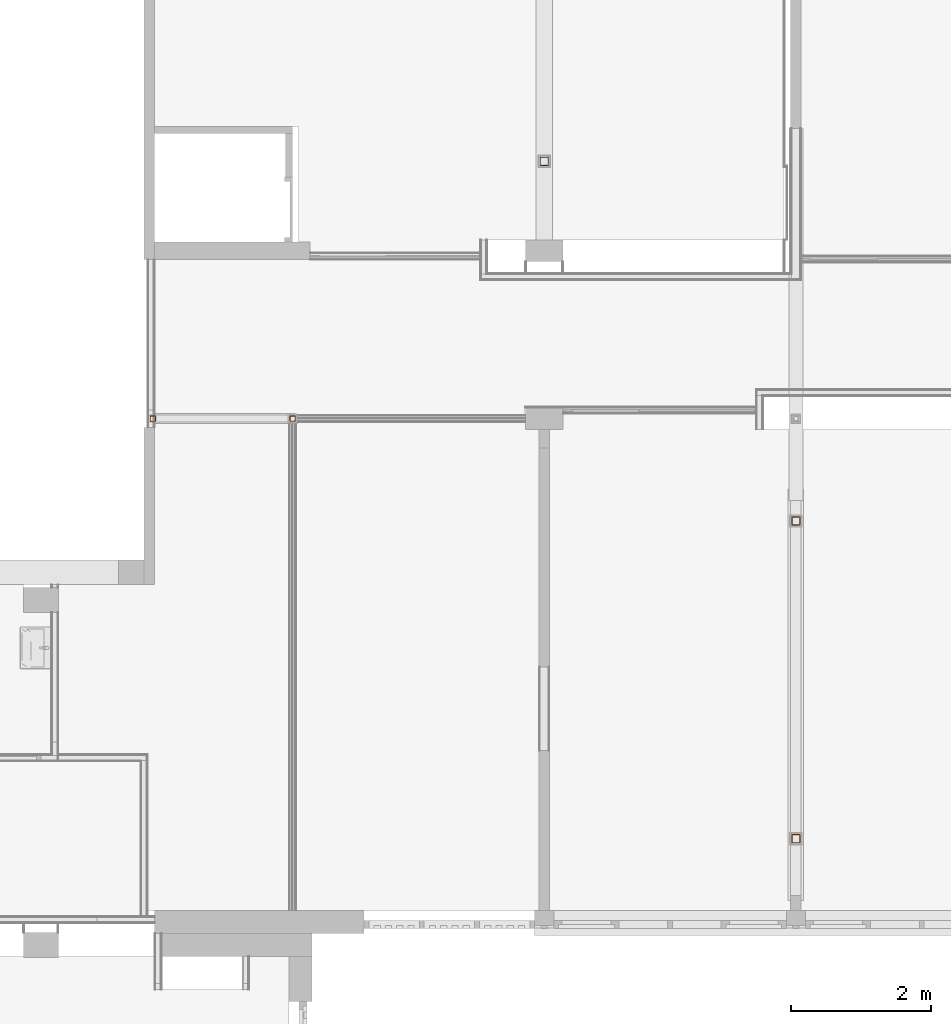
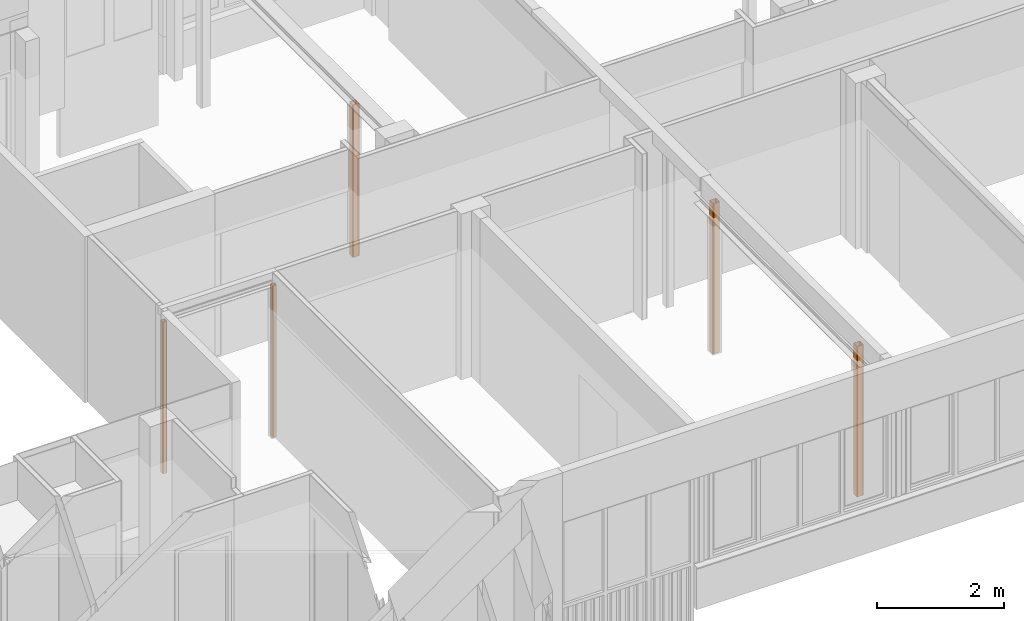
# One storey, part 84 of 99: 5 proxies.
"""IFC2X3 building model written with IfcOpenShell, lengths in millimetres."""

from ifc_helpers import new_model, entity, si_unit, converted_unit, derived_unit, money_unit, direction, frame, origin_with_axes, place, context, subcontext, project, spatial, faceted_brep, source, transform, mapped, material, type_object, type_shapes, element, save


model = new_model("IFC2X3")

# Units and contexts
model_context = context("Model", 3, precision=0.01, world=origin_with_axes(), true_north=direction((0.0, 1.0)))
body_context = subcontext(model_context, "Body", "Model", "MODEL_VIEW")
ifc_project = project(units=[si_unit("LENGTHUNIT", "METRE", prefix="MILLI"), si_unit("AREAUNIT", "SQUARE_METRE"), si_unit("VOLUMEUNIT", "CUBIC_METRE"), converted_unit("PLANEANGLEUNIT", "DEGREE", entity("IfcPlaneAngleMeasure", 0.0174532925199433), si_unit("PLANEANGLEUNIT", "RADIAN"), dimensions=[0, 0, 0, 0, 0, 0, 0]), money_unit("EUR"), converted_unit("TIMEUNIT", "Year", entity("IfcTimeMeasure", 31557600.0), si_unit("TIMEUNIT", "SECOND"), dimensions=[0, 0, 1, 0, 0, 0, 0]), si_unit("MASSUNIT", "GRAM", prefix="KILO"), si_unit("THERMODYNAMICTEMPERATUREUNIT", "DEGREE_CELSIUS"), si_unit("LUMINOUSINTENSITYUNIT", "LUMEN"), si_unit("ENERGYUNIT", "JOULE", prefix="MEGA"), derived_unit("THERMALCONDUCTANCEUNIT", [(si_unit("POWERUNIT", "WATT"), 1), (si_unit("LENGTHUNIT", "METRE"), -1), (si_unit("THERMODYNAMICTEMPERATUREUNIT", "KELVIN"), -1)]), derived_unit("SPECIFICHEATCAPACITYUNIT", [(si_unit("ENERGYUNIT", "JOULE"), 1), (si_unit("MASSUNIT", "GRAM", prefix="KILO"), -1), (si_unit("THERMODYNAMICTEMPERATUREUNIT", "KELVIN"), -1)]), derived_unit("MASSDENSITYUNIT", [(si_unit("MASSUNIT", "GRAM", prefix="KILO"), 1), (si_unit("VOLUMEUNIT", "CUBIC_METRE"), -1)])], contexts=[model_context])

# Site, building, storey
site_placement = place(None, origin_with_axes())
site = spatial("IfcSite", under=ifc_project, at=site_placement, Name="Site", CompositionType="ELEMENT")
building_placement = place(site_placement, origin_with_axes())
building = spatial("IfcBuilding", under=site, at=building_placement, Name="Naam gebouw", CompositionType="ELEMENT")
storey_placement = place(building_placement, frame((0.0, 0.0, 7650.0), z_axis=(0.0, 0.0, 1.0), x_axis=(1.0, 0.0, 0.0)))
storey = spatial("IfcBuildingStorey", under=building, at=storey_placement, Name="2e verdieping N", CompositionType="ELEMENT", Elevation=7650.0)

# Proxies
ifc_material = material(Name="Metaal - Staal AFW")
building_element_proxy_type = type_object("IfcBuildingElementProxyType", Name="Buis vk warmgew kolom 27", PredefinedType="NOTDEFINED")
shared_shape_1 = source(origin_with_axes(), body_context, "Body", "Brep", [
    faceted_brep([(30.0, -40.0, 0.0), (30.0, -40.0, 2926.999999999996), (-30.0, -40.0, 2926.999999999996), (-30.0, -40.0, 0.0), (37.07106781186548, -37.07106781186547, 0.0), (37.07106781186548, -37.07106781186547, 2926.999999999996), (40.0, -30.0, 2926.999999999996), (39.99999999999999, 30.00000000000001, 2926.999999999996), (37.07106781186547, 37.07106781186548, 2926.999999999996), (30.0, 40.0, 2926.999999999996), (-30.00000000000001, 39.99999999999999, 2926.999999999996), (-37.07106781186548, 37.07106781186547, 2926.999999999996), (-40.0, 30.0, 2926.999999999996), (-39.99999999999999, -30.00000000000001, 2926.999999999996), (-37.07106781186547, -37.07106781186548, 2926.999999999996), (30.0, -35.0, 2926.999999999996), (-30.0, -35.0, 2926.999999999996), (-33.53553390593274, -33.53553390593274, 2926.999999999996), (-35.0, -30.0, 2926.999999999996), (-35.0, 30.0, 2926.999999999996), (-33.53553390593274, 33.53553390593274, 2926.999999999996), (-30.0, 35.0, 2926.999999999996), (30.0, 35.0, 2926.999999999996), (33.53553390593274, 33.53553390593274, 2926.999999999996), (35.0, 30.0, 2926.999999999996), (35.0, -30.0, 2926.999999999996), (33.53553390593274, -33.53553390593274, 2926.999999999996), (-37.07106781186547, -37.07106781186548, 0.0), (-39.99999999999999, -30.00000000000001, 0.0), (-40.0, 30.0, 0.0), (-37.07106781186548, 37.07106781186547, 0.0), (-30.00000000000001, 39.99999999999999, 0.0), (30.0, 40.0, 0.0), (37.07106781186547, 37.07106781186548, 0.0), (39.99999999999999, 30.00000000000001, 0.0), (40.0, -30.0, 0.0), (30.0, -35.0, 0.0), (33.53553390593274, -33.53553390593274, 0.0), (35.0, -30.0, 0.0), (35.0, 30.0, 0.0), (33.53553390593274, 33.53553390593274, 0.0), (30.0, 35.0, 0.0), (-30.0, 35.0, 0.0), (-33.53553390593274, 33.53553390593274, 0.0), (-35.0, 30.0, 0.0), (-35.0, -30.0, 0.0), (-33.53553390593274, -33.53553390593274, 0.0), (-30.0, -35.0, 0.0)], [[[0, 1, 2, 3]], [[4, 5, 1, 0]], [[1, 5, 6, 7, 8, 9, 10, 11, 12, 13, 14, 2], [15, 16, 17, 18, 19, 20, 21, 22, 23, 24, 25, 26]], [[3, 2, 14, 27]], [[0, 3, 27, 28, 29, 30, 31, 32, 33, 34, 35, 4], [36, 37, 38, 39, 40, 41, 42, 43, 44, 45, 46, 47]], [[35, 6, 5, 4]], [[34, 7, 6, 35]], [[33, 8, 7, 34]], [[32, 9, 8, 33]], [[31, 10, 9, 32]], [[30, 11, 10, 31]], [[29, 12, 11, 30]], [[28, 13, 12, 29]], [[27, 14, 13, 28]], [[47, 16, 15, 36]], [[46, 17, 16, 47]], [[45, 18, 17, 46]], [[44, 19, 18, 45]], [[43, 20, 19, 44]], [[42, 21, 20, 43]], [[41, 22, 21, 42]], [[40, 23, 22, 41]], [[39, 24, 23, 40]], [[38, 25, 24, 39]], [[37, 26, 25, 38]], [[36, 15, 26, 37]]]),
])
for number, where, z_axis, x_axis, name in (
    (1, (30400.0, 18025.91242510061, 0.0), (0.0, 0.0, 1.0), (0.0, -1.0, 0.0), "_Boom-x"),
    (2, (32399.99999999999, 18025.91242510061, 0.0), (0.0, 0.0, 1.0), (0.0, -1.0, 0.0), "_Boom-x"),
):
    element("IfcBuildingElementProxy", number, at=place(storey_placement, frame(where, z_axis=z_axis, x_axis=x_axis)), inside=storey, type_object=building_element_proxy_type, material=ifc_material, Name=name, context=body_context, shape_type="MappedRepresentation", body=[
        mapped(shared_shape_1, transform((0.0, 0.0, 0.0))),
    ])
shared_shape_2 = source(origin_with_axes(), body_context, "Body", "Brep", [
    faceted_brep([(49.99999999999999, -60.0, 0.0), (49.99999999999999, -60.0, 2939.999999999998), (-49.99999999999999, -60.0, 2939.999999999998), (-49.99999999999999, -60.0, 0.0), (57.07106781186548, -57.07106781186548, 0.0), (57.07106781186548, -57.07106781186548, 2939.999999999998), (60.0, -49.99999999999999, 2939.999999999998), (60.00000000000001, 49.99999999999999, 2939.999999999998), (57.07106781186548, 57.07106781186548, 2939.999999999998), (49.99999999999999, 60.0, 2939.999999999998), (-49.99999999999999, 60.00000000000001, 2939.999999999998), (-57.07106781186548, 57.07106781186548, 2939.999999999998), (-60.0, 49.99999999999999, 2939.999999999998), (-60.00000000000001, -49.99999999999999, 2939.999999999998), (-57.07106781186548, -57.07106781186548, 2939.999999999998), (49.99999999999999, -55.0, 2939.999999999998), (-49.99999999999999, -55.0, 2939.999999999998), (-53.53553390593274, -53.53553390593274, 2939.999999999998), (-55.0, -49.99999999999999, 2939.999999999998), (-55.0, 49.99999999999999, 2939.999999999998), (-53.53553390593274, 53.53553390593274, 2939.999999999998), (-49.99999999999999, 55.0, 2939.999999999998), (49.99999999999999, 55.0, 2939.999999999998), (53.53553390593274, 53.53553390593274, 2939.999999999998), (55.0, 49.99999999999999, 2939.999999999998), (55.0, -49.99999999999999, 2939.999999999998), (53.53553390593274, -53.53553390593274, 2939.999999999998), (-57.07106781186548, -57.07106781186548, 0.0), (-60.00000000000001, -49.99999999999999, 0.0), (-60.0, 49.99999999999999, 0.0), (-57.07106781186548, 57.07106781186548, 0.0), (-49.99999999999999, 60.00000000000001, 0.0), (49.99999999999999, 60.0, 0.0), (57.07106781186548, 57.07106781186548, 0.0), (60.00000000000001, 49.99999999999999, 0.0), (60.0, -49.99999999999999, 0.0), (49.99999999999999, -55.0, 0.0), (53.53553390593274, -53.53553390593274, 0.0), (55.0, -49.99999999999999, 0.0), (55.0, 49.99999999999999, 0.0), (53.53553390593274, 53.53553390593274, 0.0), (49.99999999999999, 55.0, 0.0), (-49.99999999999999, 55.0, 0.0), (-53.53553390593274, 53.53553390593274, 0.0), (-55.0, 49.99999999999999, 0.0), (-55.0, -49.99999999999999, 0.0), (-53.53553390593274, -53.53553390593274, 0.0), (-49.99999999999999, -55.0, 0.0)], [[[0, 1, 2, 3]], [[4, 5, 1, 0]], [[1, 5, 6, 7, 8, 9, 10, 11, 12, 13, 14, 2], [15, 16, 17, 18, 19, 20, 21, 22, 23, 24, 25, 26]], [[3, 2, 14, 27]], [[0, 3, 27, 28, 29, 30, 31, 32, 33, 34, 35, 4], [36, 37, 38, 39, 40, 41, 42, 43, 44, 45, 46, 47]], [[35, 6, 5, 4]], [[34, 7, 6, 35]], [[33, 8, 7, 34]], [[32, 9, 8, 33]], [[31, 10, 9, 32]], [[30, 11, 10, 31]], [[29, 12, 11, 30]], [[28, 13, 12, 29]], [[27, 14, 13, 28]], [[47, 16, 15, 36]], [[46, 17, 16, 47]], [[45, 18, 17, 46]], [[44, 19, 18, 45]], [[43, 20, 19, 44]], [[42, 21, 20, 43]], [[41, 22, 21, 42]], [[40, 23, 22, 41]], [[39, 24, 23, 40]], [[38, 25, 24, 39]], [[37, 26, 25, 38]], [[36, 15, 26, 37]]]),
])
proxy_placement = place(storey_placement, frame((35999.99999999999, 21705.91242510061, 0.0), z_axis=(0.0, 0.0, 1.0), x_axis=(0.0, -1.0, 0.0)))
element("IfcBuildingElementProxy", 3, at=proxy_placement, inside=storey, type_object=building_element_proxy_type, material=ifc_material, Name="_Boom-x", context=body_context, shape_type="MappedRepresentation", body=[
    mapped(shared_shape_2, transform((0.0, 0.0, 0.0))),
])
shared_shape_3 = source(origin_with_axes(), body_context, "Body", "Brep", [
    faceted_brep([(49.99999999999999, -60.0, 0.0), (49.99999999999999, -60.0, 2900.0), (-49.99999999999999, -60.0, 2900.0), (-49.99999999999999, -60.0, 0.0), (57.07106781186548, -57.07106781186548, 0.0), (57.07106781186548, -57.07106781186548, 2900.0), (60.0, -49.99999999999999, 2900.0), (60.00000000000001, 49.99999999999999, 2900.0), (57.07106781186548, 57.07106781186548, 2900.0), (49.99999999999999, 60.0, 2900.0), (-49.99999999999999, 60.00000000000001, 2900.0), (-57.07106781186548, 57.07106781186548, 2900.0), (-60.0, 49.99999999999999, 2900.0), (-60.00000000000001, -49.99999999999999, 2900.0), (-57.07106781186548, -57.07106781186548, 2900.0), (49.99999999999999, -55.0, 2900.0), (-49.99999999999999, -55.0, 2900.0), (-53.53553390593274, -53.53553390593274, 2900.0), (-55.0, -49.99999999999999, 2900.0), (-55.0, 49.99999999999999, 2900.0), (-53.53553390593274, 53.53553390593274, 2900.0), (-49.99999999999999, 55.0, 2900.0), (49.99999999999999, 55.0, 2900.0), (53.53553390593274, 53.53553390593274, 2900.0), (55.0, 49.99999999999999, 2900.0), (55.0, -49.99999999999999, 2900.0), (53.53553390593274, -53.53553390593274, 2900.0), (-57.07106781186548, -57.07106781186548, 0.0), (-60.00000000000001, -49.99999999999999, 0.0), (-60.0, 49.99999999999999, 0.0), (-57.07106781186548, 57.07106781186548, 0.0), (-49.99999999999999, 60.00000000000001, 0.0), (49.99999999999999, 60.0, 0.0), (57.07106781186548, 57.07106781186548, 0.0), (60.00000000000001, 49.99999999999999, 0.0), (60.0, -49.99999999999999, 0.0), (49.99999999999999, -55.0, 0.0), (53.53553390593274, -53.53553390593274, 0.0), (55.0, -49.99999999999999, 0.0), (55.0, 49.99999999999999, 0.0), (53.53553390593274, 53.53553390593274, 0.0), (49.99999999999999, 55.0, 0.0), (-49.99999999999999, 55.0, 0.0), (-53.53553390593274, 53.53553390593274, 0.0), (-55.0, 49.99999999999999, 0.0), (-55.0, -49.99999999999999, 0.0), (-53.53553390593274, -53.53553390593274, 0.0), (-49.99999999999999, -55.0, 0.0)], [[[0, 1, 2, 3]], [[4, 5, 1, 0]], [[1, 5, 6, 7, 8, 9, 10, 11, 12, 13, 14, 2], [15, 16, 17, 18, 19, 20, 21, 22, 23, 24, 25, 26]], [[3, 2, 14, 27]], [[0, 3, 27, 28, 29, 30, 31, 32, 33, 34, 35, 4], [36, 37, 38, 39, 40, 41, 42, 43, 44, 45, 46, 47]], [[35, 6, 5, 4]], [[34, 7, 6, 35]], [[33, 8, 7, 34]], [[32, 9, 8, 33]], [[31, 10, 9, 32]], [[30, 11, 10, 31]], [[29, 12, 11, 30]], [[28, 13, 12, 29]], [[27, 14, 13, 28]], [[47, 16, 15, 36]], [[46, 17, 16, 47]], [[45, 18, 17, 46]], [[44, 19, 18, 45]], [[43, 20, 19, 44]], [[42, 21, 20, 43]], [[41, 22, 21, 42]], [[40, 23, 22, 41]], [[39, 24, 23, 40]], [[38, 25, 24, 39]], [[37, 26, 25, 38]], [[36, 15, 26, 37]]]),
])
type_shapes(building_element_proxy_type, [shared_shape_1, shared_shape_2, shared_shape_3])
for number, where, z_axis, x_axis, name in (
    (4, (39600.0, 16560.91242510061, 0.0), (0.0, 0.0, 1.0), (0.0, -1.0, 0.0), "_Boom-x"),
    (5, (39600.00000000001, 12015.91242510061, 0.0), (0.0, 0.0, 1.0), (0.0, -1.0, 0.0), "_Boom-x"),
):
    element("IfcBuildingElementProxy", number, at=place(storey_placement, frame(where, z_axis=z_axis, x_axis=x_axis)), inside=storey, type_object=building_element_proxy_type, material=ifc_material, Name=name, context=body_context, shape_type="MappedRepresentation", body=[
        mapped(shared_shape_3, transform((0.0, 0.0, 0.0))),
    ])

save(model, "model.ifc")
